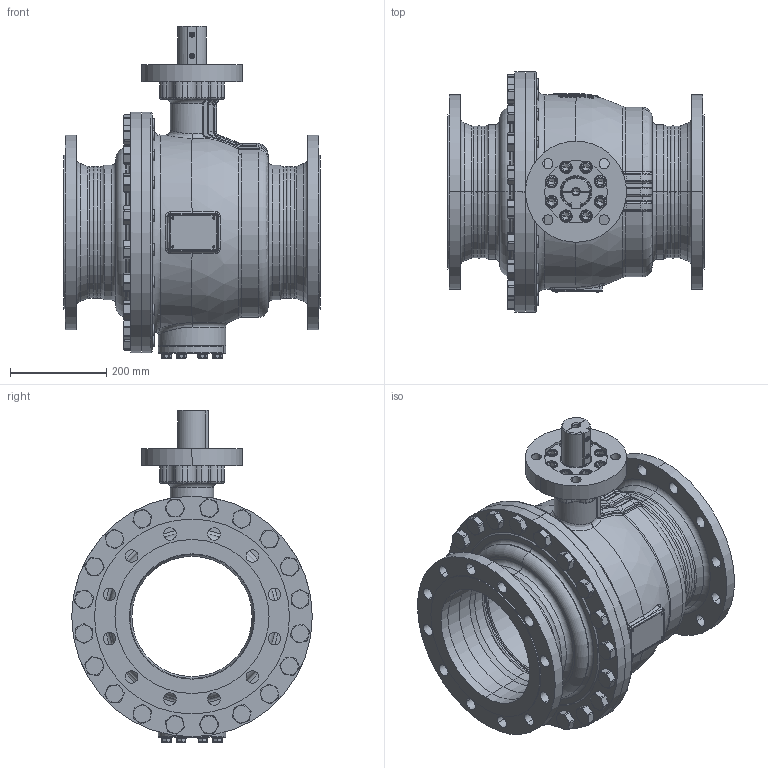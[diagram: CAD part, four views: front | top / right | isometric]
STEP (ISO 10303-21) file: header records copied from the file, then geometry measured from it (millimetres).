
FILE_DESCRIPTION((''),'2;1');
FILE_NAME('KHI-F_250_PN016-F16-P_SW0001','2026-02-05T13:53:18',('fischerkl'),('KLINGER'),'CREO PARAMETRIC BY PTC INC, 2023014','CREO PARAMETRIC BY PTC INC, 2023014','');
FILE_SCHEMA(('CONFIG_CONTROL_DESIGN'));
Products named in the file (1): KHI-F_250_PN016-F16-P_SW0001
Bounding box: 533 x 500 x 689.8 mm (x, y, z)
Volume: 21387818.7 mm3; surface area: 3330604.8 mm2
Topology: 1 solids, 4 shells, 3277 faces, 8305 edges, 5174 vertices
Faces by surface type: plane 1683, cylinder 768, cone 387, torus 312, bspline 97, sphere 30
Entity records: 134218 total; most frequent: CARTESIAN_POINT 56234, ORIENTED_EDGE 16550, DIRECTION 16034, EDGE_CURVE 8275, AXIS2_PLACEMENT_3D 6057, VERTEX_POINT 5174, VECTOR 3920, LINE 3920
